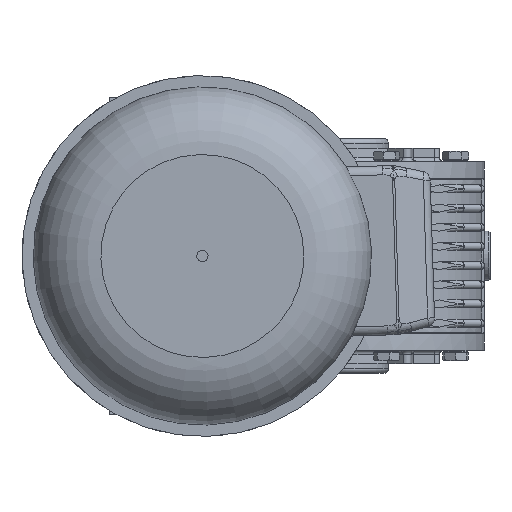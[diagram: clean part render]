
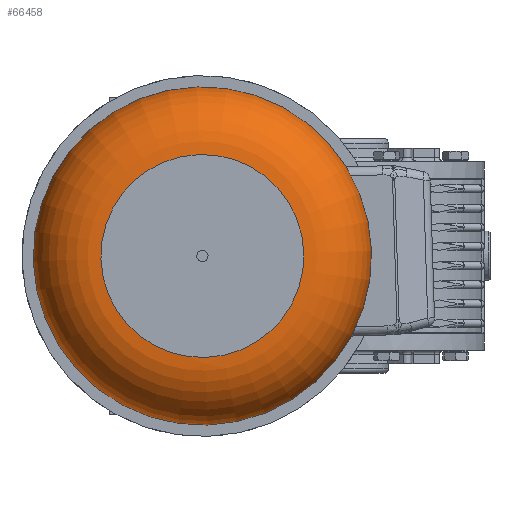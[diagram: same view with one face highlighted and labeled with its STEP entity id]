
A CAD part, left-side view. The second image highlights one B-rep face of the part: STEP entity #66458.
In plain terms, the highlighted toroidal (fillet/blend) face has major radius 45 mm and minor radius 30 mm.
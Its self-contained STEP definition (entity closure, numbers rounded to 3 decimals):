
#66431=CARTESIAN_POINT('',(314.0,0.0,0.0));
#66432=DIRECTION('',(1.0,0.0,0.0));
#66433=DIRECTION('',(0.0,0.0,-1.0));
#66434=AXIS2_PLACEMENT_3D('',#66431,#66432,#66433);
#66435=TOROIDAL_SURFACE('',#66434,45.,30.0);
#66436=CARTESIAN_POINT('',(344.0,45.,0.0));
#66437=VERTEX_POINT('',#66436);
#66438=CARTESIAN_POINT('',(344.0,0.0,0.0));
#66439=DIRECTION('',(1.0,0.0,0.0));
#66440=DIRECTION('',(0.0,1.0,0.0));
#66441=AXIS2_PLACEMENT_3D('',#66438,#66439,#66440);
#66442=CIRCLE('',#66441,45.);
#66443=EDGE_CURVE('',#66437,#66437,#66442,.T.);
#66444=ORIENTED_EDGE('',*,*,#66443,.F.);
#66445=EDGE_LOOP('',(#66444));
#66446=FACE_OUTER_BOUND('',#66445,.T.);
#66447=CARTESIAN_POINT('',(314.0,75.,0.0));
#66448=VERTEX_POINT('',#66447);
#66449=CARTESIAN_POINT('',(314.0,0.0,0.0));
#66450=DIRECTION('',(1.0,0.0,0.0));
#66451=DIRECTION('',(0.0,1.0,0.0));
#66452=AXIS2_PLACEMENT_3D('',#66449,#66450,#66451);
#66453=CIRCLE('',#66452,75.);
#66454=EDGE_CURVE('',#66448,#66448,#66453,.T.);
#66455=ORIENTED_EDGE('',*,*,#66454,.T.);
#66456=EDGE_LOOP('',(#66455));
#66457=FACE_BOUND('',#66456,.T.);
#66458=ADVANCED_FACE('',(#66446,#66457),#66435,.T.);
